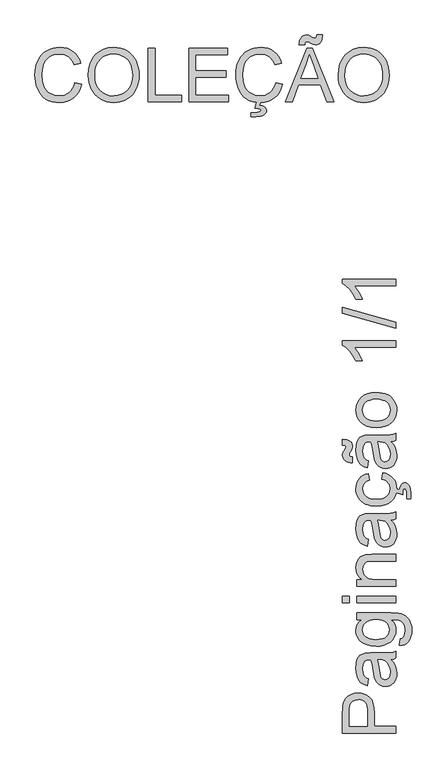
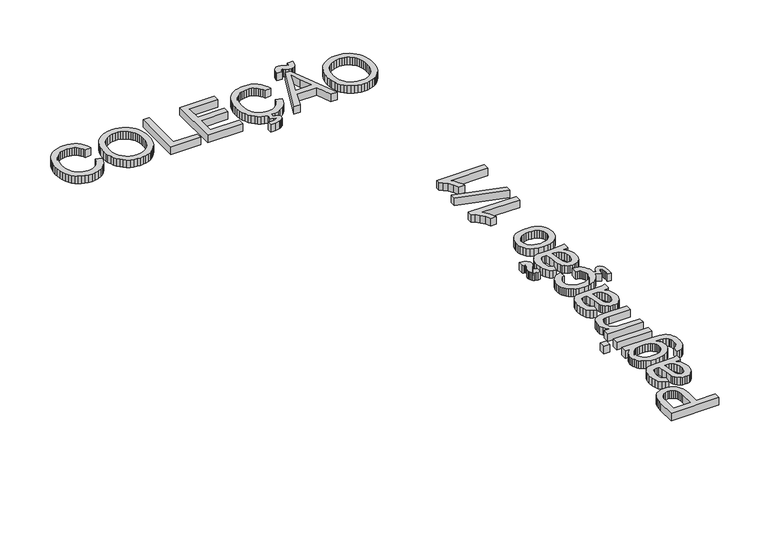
"""IFC4 building model written with IfcOpenShell, lengths in millimetres: proxy geometry, Tabela3D-1linha : Tabela3D-1linha."""

from ifc_helpers import new_model, si_unit, origin, origin_with_axes, place, context, project, spatial, polyline, outline, extrude, source, transform, mapped, element, save


def generic_models_49945ff3(model_context):
    return source(origin(), model_context, "Body", "SweptSolid", [
        extrude(outline(polyline([(4656.2375899, 6752.3459709), (4053.499729, 6752.3459709), (4053.499729, 6975.7239184), (4054.9344687, 7027.7424325), (4059.2386881, 7065.7814308), (4069.9624482, 7105.9357506), (4087.4184489, 7138.9899478), (4112.3976364, 7165.6062102), (4145.690957, 7186.4467252), (4184.9623599, 7199.9112062), (4227.8757947, 7204.3993666), (4264.8755263, 7201.3689386), (4298.9138079, 7192.2776548), (4329.9906395, 7177.1255152), (4358.106021, 7155.9125196), (4381.4113454, 7126.7900612), (4398.0580056, 7087.9095328), (4408.0460018, 7039.2709345), (4411.3753339, 6980.8742663), (4411.3753339, 6827.6882035), (4656.2375899, 6827.6882035), (4656.2375899, 6752.3459709)]), holes=[polyline([(4336.0331013, 6827.6882035), (4336.0331013, 6985.2888503), (4334.3040559, 7021.5252268), (4329.1169197, 7052.0962206), (4320.4716929, 7077.0018316), (4308.3683752, 7096.24206), (4293.1288636, 7110.5986549), (4275.0750547, 7120.8533655), (4254.2069485, 7127.0061918), (4230.524545, 7129.057134), (4196.6794015, 7124.2194857), (4168.1317587, 7109.706541), (4146.6474501, 7087.3209216), (4133.9923095, 7058.8652493), (4130.1295486, 7029.8025717), (4128.8419616, 6983.5230167), (4128.8419616, 6827.6882035), (4336.0331013, 6827.6882035)])]), origin_with_axes(), (0.0, 0.0, 1.0), 100.0),
        extrude(outline(polyline([(4599.7309154, 7581.1105296), (4630.5962148, 7545.1132764), (4650.7929363, 7508.0491654), (4661.9397608, 7469.072068), (4665.6553689, 7427.3358557), (4663.4204858, 7393.7896162), (4656.7158365, 7364.3728522), (4645.5414208, 7339.0855635), (4629.897239, 7317.9277503), (4610.7765723, 7301.2213092), (4589.1727021, 7289.288137), (4565.0856285, 7282.1282336), (4538.5153514, 7279.7415992), (4507.28217, 7283.3468427), (4478.9184682, 7294.1625734), (4454.6382565, 7310.8460219), (4435.6555455, 7332.0544189), (4421.3081477, 7356.9784241), (4410.9338755, 7384.808697), (4399.60311, 7449.9973866), (4387.6837334, 7527.0318763), (4373.7042176, 7580.6690712), (4356.9287986, 7581.1105296), (4323.3043842, 7575.9233935), (4310.8515787, 7569.4394733), (4301.3050409, 7560.3619851), (4291.7768972, 7544.671818), (4284.9710803, 7525.5603484), (4279.5264268, 7477.0735014), (4283.1500644, 7432.191898), (4294.0209774, 7400.848352), (4314.1257284, 7379.4744081), (4345.4508803, 7364.5016109), (4336.0331013, 7289.1593783), (4294.8303178, 7302.2375832), (4262.4567022, 7321.753723), (4237.6982439, 7349.5288137), (4219.3409324, 7387.383871), (4207.9733787, 7433.6818201), (4204.1841942, 7486.7855861), (4207.5319203, 7537.7188483), (4217.5750988, 7578.0938973), (4232.6766547, 7608.5361324), (4251.1995132, 7629.670953), (4274.1001674, 7643.687257), (4302.3351105, 7652.7739423), (4368.259564, 7656.4527623), (4461.9958964, 7656.4527623), (4592.8883103, 7660.278735), (4625.2435318, 7665.9441177), (4656.2375899, 7675.2883204), (4656.2375899, 7599.9460878), (4630.0443918, 7587.8795584), (4599.7309154, 7581.1105296)]), holes=[polyline([(4449.0464502, 7581.1105296), (4461.5912262, 7530.4899671), (4472.1494395, 7459.5623184), (4484.3631217, 7394.7415109), (4492.714043, 7377.8741214), (4504.2287494, 7365.3845277), (4518.0243243, 7357.6590058), (4533.2178507, 7355.0838318), (4555.6218642, 7360.6940322), (4573.9791757, 7377.5246335), (4586.2296462, 7405.2077536), (4590.3131363, 7443.3755106), (4585.8065819, 7483.8425301), (4572.2869186, 7519.60066), (4552.3661085, 7548.5897613), (4528.6561139, 7568.7496946), (4504.2287494, 7577.6892271), (4470.3836059, 7580.6690712), (4449.0464502, 7581.1105296)])]), origin_with_axes(), (0.0, 0.0, 1.0), 100.0),
        extrude(outline(polyline([(4693.9087062, 7741.2127739), (4703.3264852, 7816.5550066), (4726.8709329, 7824.8691396), (4743.0577407, 7840.982371), (4755.639305, 7872.6570108), (4759.8331597, 7914.1173117), (4755.087482, 7958.3367275), (4749.1553848, 7976.1973984), (4740.8504487, 7991.2253779), (4718.041765, 8014.0340616), (4687.5811358, 8028.0135774), (4655.1707321, 8032.0970675), (4599.7309154, 8033.1639253), (4624.4525855, 8008.0927673), (4642.1109212, 7980.1153416), (4652.7059227, 7949.2316481), (4656.2375899, 7915.4416869), (4652.1265086, 7874.1331373), (4639.7932647, 7837.7634036), (4619.2378582, 7806.3324856), (4590.4602891, 7779.8403834), (4555.9345639, 7758.8205259), (4518.1346889, 7743.806342), (4477.0606641, 7734.7978316), (4432.7124896, 7731.7949949), (4371.8832017, 7737.1844661), (4315.9467443, 7753.3528798), (4290.723835, 7765.3366358), (4268.5451492, 7779.7300188), (4249.410687, 7796.533029), (4233.3204482, 7815.7456662), (4220.5733371, 7837.0598293), (4211.4682577, 7860.1674171), (4206.0052101, 7885.0684296), (4204.1841942, 7911.7628669), (4208.3044725, 7946.996765), (4220.6653076, 7978.9749074), (4241.2666993, 8007.6972942), (4270.1086477, 8033.1639253), (4213.6019733, 8033.1639253), (4213.6019733, 8108.5061579), (4595.7577898, 8108.5061579), (4683.9942864, 8103.35581), (4716.8139589, 8096.9178751), (4742.1012475, 8087.9047662), (4762.4957056, 8076.1003527), (4780.6368865, 8061.2885038), (4796.5247902, 8043.4692197), (4810.1594166, 8022.6425002), (4821.103906, 7999.0198776), (4828.9213984, 7972.812884), (4833.6118938, 7944.0215194), (4835.1753923, 7912.6457837), (4832.9726989, 7875.733424), (4826.3646185, 7842.5458695), (4815.3511513, 7813.0831202), (4799.9322972, 7787.3451761), (4780.0896621, 7766.5552449), (4755.8048519, 7751.9365341), (4727.0778666, 7743.4890438), (4693.9087062, 7741.2127739)]), holes=[polyline([(4427.5621417, 7807.1372275), (4464.8147922, 7809.1467829), (4496.6687744, 7815.1754491), (4523.1240884, 7825.2232261), (4544.1807341, 7839.2901139), (4560.2433817, 7856.3920281), (4571.7167015, 7875.5448845), (4578.6006933, 7896.748683), (4580.8953572, 7920.0034236), (4578.6144889, 7943.028238), (4571.7718838, 7964.1308689), (4560.3675419, 7983.3113164), (4544.4014633, 8000.5695805), (4523.5517512, 8014.8296064), (4497.4965089, 8025.0153391), (4466.2357364, 8031.1267788), (4429.7694336, 8033.1639253), (4394.8252426, 8031.0669979), (4364.4519854, 8024.7762158), (4338.6496619, 8014.291579), (4317.4182723, 7999.6130874), (4300.8405899, 7981.9823427), (4288.9993882, 7962.6409468), (4281.8946671, 7941.5888997), (4279.5264268, 7918.8262012), (4281.8578789, 7896.4451803), (4288.8522354, 7875.8024019), (4300.5094961, 7856.8978658), (4316.8296611, 7839.7315722), (4337.739154, 7825.4715464), (4363.1643984, 7815.2858137), (4393.1053943, 7809.174374), (4427.5621417, 7807.1372275)])]), origin_with_axes(), (0.0, 0.0, 1.0), 100.0),
        extrude(outline(polyline([(4128.8419616, 8221.5195068), (4053.499729, 8221.5195068), (4053.499729, 8296.8617395), (4128.8419616, 8296.8617395), (4128.8419616, 8221.5195068)])), origin_with_axes(), (0.0, 0.0, 1.0), 100.0),
        extrude(outline(polyline([(4656.2375899, 8221.5195068), (4213.6019733, 8221.5195068), (4213.6019733, 8296.8617395), (4656.2375899, 8296.8617395), (4656.2375899, 8221.5195068)])), origin_with_axes(), (0.0, 0.0, 1.0), 100.0),
        extrude(outline(polyline([(4656.2375899, 8409.8750884), (4213.6019733, 8409.8750884), (4213.6019733, 8485.217321), (4275.4061484, 8485.217321), (4244.2465435, 8511.3921249), (4221.9896827, 8542.8276414), (4208.6355663, 8579.5238704), (4204.1841942, 8621.480812), (4207.7710436, 8658.6184994), (4218.531592, 8692.6291899), (4235.12307, 8720.9928917), (4256.2027083, 8741.1896132), (4281.7153247, 8754.8932175), (4311.6057368, 8763.7775677), (4384.4463718, 8767.7506933), (4656.2375899, 8767.7506933), (4656.2375899, 8692.4084607), (4394.5999149, 8692.4084607), (4355.6412116, 8690.2379569), (4327.9396974, 8683.7264456), (4308.0924637, 8671.7150984), (4292.6966022, 8653.0450872), (4282.8189707, 8629.1143634), (4279.5264268, 8601.3208787), (4281.3750338, 8578.4432171), (4286.9208549, 8557.1934333), (4296.16389, 8537.5715274), (4309.1041392, 8519.5774993), (4327.2131304, 8504.5449213), (4351.9623916, 8493.8073656), (4383.3519229, 8487.3648321), (4421.3817241, 8485.217321), (4656.2375899, 8485.217321), (4656.2375899, 8409.8750884)])), origin_with_axes(), (0.0, 0.0, 1.0), 100.0),
        extrude(outline(polyline([(4599.7309154, 9153.8796354), (4630.5962148, 9117.8823822), (4650.7929363, 9080.8182712), (4661.9397608, 9041.8411738), (4665.6553689, 9000.1049614), (4663.4204858, 8966.558722), (4656.7158365, 8937.141958), (4645.5414208, 8911.8546693), (4629.897239, 8890.6968561), (4610.7765723, 8873.990415), (4589.1727021, 8862.0572427), (4565.0856285, 8854.8973394), (4538.5153514, 8852.510705), (4507.28217, 8856.1159485), (4478.9184682, 8866.9316792), (4454.6382565, 8883.6151277), (4435.6555455, 8904.8235247), (4421.3081477, 8929.7475299), (4410.9338755, 8957.5778028), (4399.60311, 9022.7664923), (4387.6837334, 9099.8009821), (4373.7042176, 9153.438177), (4356.9287986, 9153.8796354), (4323.3043842, 9148.6924993), (4310.8515787, 9142.2085791), (4301.3050409, 9133.1310909), (4291.7768972, 9117.4409238), (4284.9710803, 9098.3294541), (4279.5264268, 9049.8426072), (4283.1500644, 9004.9610038), (4294.0209774, 8973.6174578), (4314.1257284, 8952.2435139), (4345.4508803, 8937.2707167), (4336.0331013, 8861.928484), (4294.8303178, 8875.006689), (4262.4567022, 8894.5228288), (4237.6982439, 8922.2979195), (4219.3409324, 8960.1529768), (4207.9733787, 9006.4509259), (4204.1841942, 9059.5546919), (4207.5319203, 9110.4879541), (4217.5750988, 9150.8630031), (4232.6766547, 9181.3052382), (4251.1995132, 9202.4400588), (4274.1001674, 9216.4563628), (4302.3351105, 9225.5430481), (4368.259564, 9229.221868), (4461.9958964, 9229.221868), (4592.8883103, 9233.0478408), (4625.2435318, 9238.7132235), (4656.2375899, 9248.0574262), (4656.2375899, 9172.7151936), (4630.0443918, 9160.6486641), (4599.7309154, 9153.8796354)]), holes=[polyline([(4449.0464502, 9153.8796354), (4461.5912262, 9103.2590729), (4472.1494395, 9032.3314242), (4484.3631217, 8967.5106167), (4492.714043, 8950.6432272), (4504.2287494, 8938.1536334), (4518.0243243, 8930.4281115), (4533.2178507, 8927.8529376), (4555.6218642, 8933.463138), (4573.9791757, 8950.2937393), (4586.2296462, 8977.9768594), (4590.3131363, 9016.1446164), (4585.8065819, 9056.6116359), (4572.2869186, 9092.3697658), (4552.3661085, 9121.358867), (4528.6561139, 9141.5188004), (4504.2287494, 9150.4583329), (4470.3836059, 9153.438177), (4449.0464502, 9153.8796354)])]), origin_with_axes(), (0.0, 0.0, 1.0), 100.0),
        extrude(outline(polyline([(4496.1353456, 9615.3508102), (4505.5531246, 9690.6930428), (4541.1043209, 9682.4984713), (4572.5628301, 9669.6869809), (4599.928652, 9652.2585713), (4623.2017867, 9630.2132428), (4641.7752289, 9604.4798972), (4655.0419734, 9575.9874367), (4663.00202, 9544.7358612), (4665.6553689, 9510.7251707), (4665.4777226, 9508.6973547), (4697.1460677, 9498.2171829), (4704.0622492, 9532.154297), (4717.1588483, 9557.1518785), (4734.265361, 9572.54774), (4753.2112838, 9577.6796939), (4767.1356173, 9575.8218898), (4780.2138222, 9570.2484776), (4792.4458986, 9560.9594572), (4803.8318463, 9547.9548287), (4813.4243693, 9531.1978038), (4820.2761715, 9510.6515943), (4825.7576132, 9458.1916218), (4825.7576132, 9398.7418914), (4778.6687179, 9398.7418914), (4778.6687179, 9440.3861333), (4776.4982141, 9475.8499576), (4769.9867028, 9498.9529469), (4762.6290629, 9508.554667), (4753.799895, 9511.7552403), (4743.1313171, 9506.6048924), (4735.185066, 9487.548605), (4731.5798225, 9443.476342), (4660.4883996, 9463.4708047), (4650.8481186, 9430.5820781), (4632.3390557, 9397.0634298), (4606.4263677, 9367.9133802), (4573.5974982, 9344.3183487), (4534.3398908, 9327.4647548), (4488.6535455, 9317.3525985), (4436.5384623, 9313.9818797), (4369.4919687, 9319.7392329), (4339.3210466, 9326.9359245), (4311.3850076, 9337.0112926), (4286.2448717, 9350.0343152), (4264.4616591, 9366.0739702), (4246.0353697, 9385.1302576), (4230.9660034, 9407.2031773), (4219.2489619, 9431.2948495), (4210.8796465, 9456.4073942), (4205.8580573, 9482.5408114), (4204.1841942, 9509.6951012), (4206.4834567, 9543.1217789), (4213.3812441, 9573.3570804), (4224.8775564, 9600.4010056), (4240.9723937, 9624.2535545), (4261.2978739, 9644.5100568), (4285.4861151, 9660.7658425), (4313.5371172, 9673.0209114), (4345.4508803, 9681.2752637), (4354.8686594, 9605.9330311), (4321.9984031, 9592.266215), (4298.4355613, 9570.9842416), (4284.2537104, 9543.2643332), (4279.5264268, 9510.2837123), (4281.8532804, 9484.683724), (4288.8338413, 9461.5945303), (4300.4681094, 9441.0161312), (4316.7560847, 9422.9485267), (4338.0748463, 9408.2378454), (4364.8014733, 9397.7302159), (4396.9359656, 9391.4256382), (4434.4783232, 9389.3241123), (4472.5862993, 9391.379653), (4505.0932721, 9397.5462749), (4531.9992416, 9407.8239782), (4553.3042076, 9422.2127627), (4569.4956139, 9439.9216822), (4581.0609041, 9460.1597905), (4588.0000783, 9482.9270875), (4590.3131363, 9508.2235732), (4584.537389, 9547.2374588), (4577.3177048, 9564.1094468), (4567.210147, 9579.2247982), (4554.1043509, 9592.1604489), (4537.889952, 9602.4933344), (4518.5669502, 9610.2234549), (4496.1353456, 9615.3508102)])), origin_with_axes(), (0.0, 0.0, 1.0), 100.0),
        extrude(outline(polyline([(4166.5130779, 9803.7063917), (4142.0581222, 9805.058358), (4120.1967347, 9809.4085626), (4100.9289152, 9816.7570055), (4084.2546638, 9827.1036866), (4070.7993798, 9839.6208715), (4061.1884627, 9853.7751312), (4055.4219124, 9869.5664659), (4053.499729, 9886.9948754), (4059.5697819, 9914.8067542), (4077.7799406, 9947.3275226), (4087.8231191, 9964.5076118), (4091.1708453, 9977.7881518), (4089.276253, 9987.0035958), (4083.5924762, 9993.7542304), (4072.2801048, 9998.4447258), (4053.499729, 10001.4797523), (4053.499729, 10067.4042058), (4102.9430691, 10060.8375122), (4122.3672385, 10053.512062), (4138.2597406, 10043.4918762), (4150.6205757, 10031.3563688), (4159.4497436, 10017.6849542), (4164.7472443, 10002.4776322), (4166.5130779, 9985.7344029), (4160.7741188, 9957.7385831), (4143.5572414, 9926.1375197), (4132.5207815, 9907.3019615), (4128.8419616, 9894.3525153), (4131.2331945, 9884.346125), (4138.4068934, 9876.3998739), (4150.1423291, 9871.1759496), (4166.5130779, 9869.6308452), (4166.5130779, 9803.7063917)])), origin_with_axes(), (0.0, 0.0, 1.0), 100.0),
        extrude(outline(polyline([(4599.7309154, 10039.1508686), (4630.5962148, 10003.1536154), (4650.7929363, 9966.0895044), (4661.9397608, 9927.112407), (4665.6553689, 9885.3761946), (4663.4204858, 9851.8299552), (4656.7158365, 9822.4131912), (4645.5414208, 9797.1259025), (4629.897239, 9775.9680893), (4610.7765723, 9759.2616482), (4589.1727021, 9747.3284759), (4565.0856285, 9740.1685726), (4538.5153514, 9737.7819382), (4507.28217, 9741.3871817), (4478.9184682, 9752.2029124), (4454.6382565, 9768.8863609), (4435.6555455, 9790.0947579), (4421.3081477, 9815.0187631), (4410.9338755, 9842.849036), (4399.60311, 9908.0377255), (4387.6837334, 9985.0722153), (4373.7042176, 10038.7094102), (4356.9287986, 10039.1508686), (4323.3043842, 10033.9637325), (4310.8515787, 10027.4798123), (4301.3050409, 10018.4023241), (4291.7768972, 10002.712157), (4284.9710803, 9983.6006873), (4279.5264268, 9935.1138404), (4283.1500644, 9890.232237), (4294.0209774, 9858.888691), (4314.1257284, 9837.5147471), (4345.4508803, 9822.5419499), (4336.0331013, 9747.1997172), (4294.8303178, 9760.2779222), (4262.4567022, 9779.794062), (4237.6982439, 9807.5691526), (4219.3409324, 9845.42421), (4207.9733787, 9891.722159), (4204.1841942, 9944.825925), (4207.5319203, 9995.7591873), (4217.5750988, 10036.1342363), (4232.6766547, 10066.5764714), (4251.1995132, 10087.711292), (4274.1001674, 10101.727596), (4302.3351105, 10110.8142813), (4368.259564, 10114.4931012), (4461.9958964, 10114.4931012), (4592.8883103, 10118.319074), (4625.2435318, 10123.9844567), (4656.2375899, 10133.3286594), (4656.2375899, 10057.9864268), (4630.0443918, 10045.9198973), (4599.7309154, 10039.1508686)]), holes=[polyline([(4449.0464502, 10039.1508686), (4461.5912262, 9988.5303061), (4472.1494395, 9917.6026574), (4484.3631217, 9852.7818499), (4492.714043, 9835.9144604), (4504.2287494, 9823.4248666), (4518.0243243, 9815.6993447), (4533.2178507, 9813.1241708), (4555.6218642, 9818.7343712), (4573.9791757, 9835.5649725), (4586.2296462, 9863.2480926), (4590.3131363, 9901.4158496), (4585.8065819, 9941.8828691), (4572.2869186, 9977.640999), (4552.3661085, 10006.6301002), (4528.6561139, 10026.7900336), (4504.2287494, 10035.7295661), (4470.3836059, 10038.7094102), (4449.0464502, 10039.1508686)])]), origin_with_axes(), (0.0, 0.0, 1.0), 100.0),
        extrude(outline(polyline([(4434.9197816, 10199.2531129), (4377.5945697, 10203.327406), (4328.1972148, 10215.5502853), (4286.7277169, 10235.9217508), (4253.1860759, 10264.4418025), (4231.7477527, 10293.1549922), (4216.4346646, 10324.8480261), (4207.2468118, 10359.5209041), (4204.1841942, 10397.1736263), (4207.9135979, 10438.7396932), (4219.1018091, 10476.3234376), (4237.7488277, 10509.9248593), (4263.8546538, 10539.5439585), (4296.5363705, 10563.7184041), (4334.9110612, 10580.9858652), (4378.9787257, 10591.3463419), (4428.739364, 10594.7998341), (4469.0684278, 10593.2731238), (4504.8541488, 10588.692993), (4536.0965273, 10581.0594416), (4562.7955631, 10570.3724696), (4585.8571657, 10556.7654344), (4606.1872444, 10540.3716929), (4623.7857994, 10521.1912454), (4638.6528305, 10499.2240918), (4650.4664411, 10475.3255577), (4658.9047343, 10450.3509687), (4663.9677103, 10424.3003249), (4665.6553689, 10397.1736263), (4661.9397608, 10355.0005541), (4650.7929363, 10317.0673219), (4632.2148956, 10283.3739296), (4606.2056385, 10253.9203774), (4573.2066235, 10230.0034492), (4533.6593091, 10212.919929), (4487.5636951, 10202.6698169), (4434.9197816, 10199.2531129)]), holes=[polyline([(4434.7726288, 10274.5953455), (4471.3171065, 10276.7750463), (4502.9595566, 10283.3141488), (4529.6999791, 10294.2126529), (4551.538374, 10309.4705587), (4568.5023325, 10328.0302053), (4580.6194457, 10348.8339322), (4587.8897137, 10371.8817391), (4590.3131363, 10397.1736263), (4587.8759181, 10422.3367548), (4580.5642634, 10445.2925913), (4568.3781724, 10466.0411358), (4551.3176448, 10484.5823884), (4529.2631192, 10499.8402941), (4502.0950339, 10510.7387982), (4469.8133888, 10517.2779007), (4432.418184, 10519.4576015), (4397.0325346, 10517.2641051), (4366.217819, 10510.6836159), (4339.9740371, 10499.7161339), (4318.3011891, 10484.3616592), (4301.3372306, 10465.7514287), (4289.2201174, 10445.0166798), (4281.9498494, 10422.1574123), (4279.5264268, 10397.1736263), (4281.9406524, 10371.8817391), (4289.1833292, 10348.8339322), (4301.2544571, 10328.0302053), (4318.1540363, 10309.4705587), (4339.9280519, 10294.2126529), (4366.6224892, 10283.3141488), (4398.2373481, 10276.7750463), (4434.7726288, 10274.5953455)])]), origin_with_axes(), (0.0, 0.0, 1.0), 100.0),
        extrude(outline(polyline([(4656.2375899, 11178.7021369), (4656.2375899, 11103.3599043), (4186.5258584, 11103.3599043), (4211.9648984, 11071.9059937), (4237.3671501, 11031.9907972), (4259.5688286, 10990.0890379), (4275.4061484, 10952.675439), (4204.1841942, 10952.675439), (4171.9945196, 11011.849258), (4133.6980039, 11063.113614), (4092.973467, 11103.5254512), (4053.499729, 11130.1417135), (4053.499729, 11178.7021369), (4656.2375899, 11178.7021369)])), origin_with_axes(), (0.0, 0.0, 1.0), 100.0),
        extrude(outline(polyline([(4656.2375899, 11319.968823), (4053.499729, 11489.4888464), (4053.499729, 11557.4734391), (4656.2375899, 11387.9534157), (4656.2375899, 11319.968823)])), origin_with_axes(), (0.0, 0.0, 1.0), 100.0),
        extrude(outline(polyline([(4656.2375899, 11875.6177885), (4656.2375899, 11800.2755559), (4186.5258584, 11800.2755559), (4211.9648984, 11768.8216453), (4237.3671501, 11728.9064489), (4259.5688286, 11687.0046896), (4275.4061484, 11649.5910907), (4204.1841942, 11649.5910907), (4171.9945196, 11708.7649096), (4133.6980039, 11760.0292657), (4092.973467, 11800.4411028), (4053.499729, 11827.0573652), (4053.499729, 11875.6177885), (4656.2375899, 11875.6177885)])), origin_with_axes(), (0.0, 0.0, 1.0), 100.0),
        extrude(outline(polyline([(1029.7354819, 14091.1684494), (1105.0777146, 14071.7442801), (1090.1692967, 14024.8899095), (1070.312866, 13983.9492419), (1045.5084225, 13948.9222775), (1015.7559661, 13919.8090161), (981.7268816, 13896.9221574), (944.0925535, 13880.5744013), (902.8529818, 13870.7657476), (858.0081666, 13867.4961963), (812.0643039, 13869.9702028), (770.6177986, 13877.392222), (733.6686507, 13889.7622541), (701.2168602, 13907.080299), (672.8163702, 13929.0888394), (648.0211237, 13955.5303578), (626.8311208, 13986.4048542), (609.2463615, 14021.7123287), (595.4369911, 14059.926071), (585.5731551, 14099.5193707), (579.6548535, 14140.4922279), (577.6820863, 14182.8446426), (579.9123709, 14228.2872661), (586.6032246, 14270.7316513), (597.7546476, 14310.1777982), (613.3666398, 14346.6257069), (633.0897133, 14379.4729705), (656.5743801, 14408.1171824), (683.8206404, 14432.5583424), (714.8284941, 14452.7964507), (748.5448789, 14468.6659602), (783.9167328, 14480.0013242), (820.9440556, 14486.8025426), (859.6268474, 14489.0696154), (902.7196246, 14486.1357565), (942.2347494, 14477.3341797), (978.1722218, 14462.6648852), (1010.5320418, 14442.1278728), (1038.7807805, 14416.2657686), (1062.385009, 14385.6211984), (1081.3447273, 14350.1941622), (1095.6599355, 14309.9846601), (1020.3177029, 14292.0320188), (1008.4535085, 14321.660315), (994.1980812, 14346.9751948), (977.5514209, 14367.9766582), (958.5135277, 14384.6647052), (936.9740369, 14397.3796266), (912.8225839, 14406.4617134), (886.0591687, 14411.9109654), (856.6837914, 14413.7273828), (822.8846331, 14411.7132289), (791.9733485, 14405.6707671), (763.9499375, 14395.5999975), (738.8144002, 14381.50092), (716.8840347, 14364.0081311), (698.4761394, 14343.7562273), (683.5907142, 14320.7452085), (672.227759, 14294.9750747), (657.8251789, 14239.8295637), (653.0243189, 14182.9917954), (658.7080957, 14113.3885219), (665.8128167, 14082.1185523), (675.7594262, 14053.2030275), (688.7088724, 14027.2167631), (704.8221038, 14004.7345746), (724.0991203, 13985.7564622), (746.5399221, 13970.2824258), (771.0546585, 13958.2756772), (796.5534793, 13949.6994282), (823.0363844, 13944.5536788), (850.5033739, 13942.838429), (883.258667, 13945.1744796), (913.392801, 13952.1826316), (940.9057757, 13963.862885), (965.7975912, 13980.2152397), (987.4796363, 14001.1661193), (1005.3632998, 14026.6419475), (1019.4485816, 14056.6427242), (1029.7354819, 14091.1684494)])), origin_with_axes(), (0.0, 0.0, 1.0), 100.0),
        extrude(outline(polyline([(1180.4199472, 14170.3366548), (1185.4415364, 14241.0343772), (1200.5063041, 14303.6203016), (1225.6142503, 14358.0944281), (1241.9344153, 14382.289567), (1260.7653749, 14404.4567565), (1303.8535536, 14441.4748823), (1352.7726619, 14467.9164007), (1407.5226998, 14483.7813117), (1468.1036674, 14489.0696154), (1508.6534603, 14486.5864119), (1547.1615082, 14479.1368015), (1583.6278109, 14466.7207842), (1618.0523686, 14449.3383599), (1649.469491, 14427.5137606), (1676.9134879, 14401.7712179), (1700.3843591, 14372.1107321), (1719.8821049, 14338.532303), (1735.20439, 14301.7992858), (1746.1488793, 14262.6750356), (1752.715573, 14221.1595524), (1754.9044708, 14177.2528363), (1752.6006098, 14132.766706), (1745.6890269, 14090.6902028), (1734.1697219, 14051.0233267), (1718.0426949, 14013.7660776), (1697.6896235, 13979.90254), (1673.4921853, 13950.4167981), (1645.4503802, 13925.3088519), (1613.5642083, 13904.5787015), (1579.0890668, 13888.3551055), (1543.2803531, 13876.7668226), (1506.1380672, 13869.8138529), (1467.662209, 13867.4961963), (1426.4042432, 13870.0575747), (1387.3903576, 13877.7417099), (1350.6205522, 13890.5486019), (1316.094827, 13908.4782506), (1284.7144928, 13930.8362789), (1257.3808606, 13956.9283094), (1234.0939303, 13986.7543421), (1214.8537019, 14020.3143771), (1199.7889342, 14056.2610466), (1189.0283859, 14093.2469827), (1182.5720568, 14131.2721854), (1180.4199472, 14170.3366548)]), holes=[polyline([(1255.7621798, 14169.6008908), (1259.5283717, 14119.6517129), (1270.8269475, 14075.3127354), (1289.6579071, 14036.5839584), (1316.0212506, 14003.4653818), (1348.0683709, 13976.9410899), (1383.950661, 13957.9951672), (1423.6681209, 13946.6276135), (1467.2207506, 13942.838429), (1511.5183413, 13946.6644017), (1551.7048508, 13958.14232), (1587.7802789, 13977.2721837), (1619.7446258, 14004.053993), (1645.9148312, 14037.8715454), (1664.6078351, 14078.1086386), (1675.8236374, 14124.7652726), (1679.5622382, 14177.8414475), (1677.9619515, 14212.3211875), (1673.1610915, 14244.5384532), (1665.1596581, 14274.4932447), (1653.9576514, 14302.1855618), (1639.6792314, 14327.2521213), (1622.4485585, 14349.3296395), (1602.2656325, 14368.4181166), (1579.1304535, 14384.5175524), (1553.7603914, 14397.2968532), (1526.8728161, 14406.4249252), (1498.4677276, 14411.9017684), (1468.5451258, 14413.7273828), (1426.5054108, 14410.2095112), (1387.5007222, 14399.6558965), (1351.5310602, 14382.0665386), (1318.5964246, 14357.4414375), (1291.1064425, 14324.5941739), (1271.470741, 14282.3383282), (1259.6893201, 14230.6739005), (1255.7621798, 14169.6008908)])]), origin_with_axes(), (0.0, 0.0, 1.0), 100.0),
        extrude(outline(polyline([(1858.5000407, 13876.9139754), (1858.5000407, 14479.6518363), (1933.8422733, 14479.6518363), (1933.8422733, 13952.256208), (2235.2112037, 13952.256208), (2235.2112037, 13876.9139754), (1858.5000407, 13876.9139754)])), origin_with_axes(), (0.0, 0.0, 1.0), 100.0),
        extrude(outline(polyline([(2319.9712154, 13876.9139754), (2319.9712154, 14479.6518363), (2753.1890529, 14479.6518363), (2753.1890529, 14404.3096037), (2395.313448, 14404.3096037), (2395.313448, 14225.3718013), (2734.3534948, 14225.3718013), (2734.3534948, 14150.0295686), (2395.313448, 14150.0295686), (2395.313448, 13952.256208), (2762.606832, 13952.256208), (2762.606832, 13876.9139754), (2319.9712154, 13876.9139754)])), origin_with_axes(), (0.0, 0.0, 1.0), 100.0),
        extrude(outline(polyline([(3299.4202394, 14091.1684494), (3374.762472, 14071.7442801), (3359.8540541, 14024.8899095), (3339.9976234, 13983.9492419), (3315.1931799, 13948.9222775), (3285.4407236, 13919.8090161), (3251.411639, 13896.9221574), (3213.7773109, 13880.5744013), (3172.5377392, 13870.7657476), (3126.7994627, 13867.5443079), (3116.3621586, 13836.0054976), (3150.2992726, 13829.089316), (3175.2968542, 13815.992717), (3190.6927157, 13798.8862042), (3195.8246695, 13779.9402815), (3193.9668655, 13766.015948), (3188.3934532, 13752.937743), (3179.1044329, 13740.7056667), (3166.0998043, 13729.319719), (3149.3427794, 13719.7271959), (3128.79657, 13712.8753938), (3076.3365975, 13707.393952), (3016.8868671, 13707.393952), (3016.8868671, 13754.4828474), (3058.5311089, 13754.4828474), (3093.9949333, 13756.6533512), (3117.0979226, 13763.1648625), (3126.6996426, 13770.5225024), (3129.900216, 13779.3516703), (3124.7498681, 13790.0202482), (3105.6935807, 13797.9664993), (3061.6213177, 13801.5717428), (3080.9010923, 13870.1220525), (3040.3025561, 13877.392222), (3003.3534082, 13889.7622541), (2970.9016177, 13907.080299), (2942.5011277, 13929.0888394), (2917.7058812, 13955.5303578), (2896.5158783, 13986.4048542), (2878.9311189, 14021.7123287), (2865.1217485, 14059.926071), (2855.2579125, 14099.5193707), (2849.3396109, 14140.4922279), (2847.3668437, 14182.8446426), (2849.5971283, 14228.2872661), (2856.2879821, 14270.7316513), (2867.4394051, 14310.1777982), (2883.0513972, 14346.6257069), (2902.7744707, 14379.4729705), (2926.2591376, 14408.1171824), (2953.5053978, 14432.5583424), (2984.5132515, 14452.7964507), (3018.2296364, 14468.6659602), (3053.6014902, 14480.0013242), (3090.628813, 14486.8025426), (3129.3116048, 14489.0696154), (3172.404382, 14486.1357565), (3211.9195068, 14477.3341797), (3247.8569792, 14462.6648852), (3280.2167992, 14442.1278728), (3308.4655379, 14416.2657686), (3332.0697665, 14385.6211984), (3351.0294848, 14350.1941622), (3365.3446929, 14309.9846601), (3290.0024603, 14292.0320188), (3278.138266, 14321.660315), (3263.8828386, 14346.9751948), (3247.2361784, 14367.9766582), (3228.1982851, 14384.6647052), (3206.6587943, 14397.3796266), (3182.5073413, 14406.4617134), (3155.7439262, 14411.9109654), (3126.3685489, 14413.7273828), (3092.5693905, 14411.7132289), (3061.6581059, 14405.6707671), (3033.6346949, 14395.5999975), (3008.4991576, 14381.50092), (2986.5687922, 14364.0081311), (2968.1608968, 14343.7562273), (2953.2754716, 14320.7452085), (2941.9125165, 14294.9750747), (2927.5099364, 14239.8295637), (2922.7090763, 14182.9917954), (2928.3928531, 14113.3885219), (2935.4975742, 14082.1185523), (2945.4441836, 14053.2030275), (2958.3936299, 14027.2167631), (2974.5068612, 14004.7345746), (2993.7838778, 13985.7564622), (3016.2246795, 13970.2824258), (3040.7394159, 13958.2756772), (3066.2382367, 13949.6994282), (3092.7211419, 13944.5536788), (3120.1881313, 13942.838429), (3152.9434245, 13945.1744796), (3183.0775584, 13952.1826316), (3210.5905331, 13963.862885), (3235.4823486, 13980.2152397), (3257.1643937, 14001.1661193), (3275.0480572, 14026.6419475), (3289.1333391, 14056.6427242), (3299.4202394, 14091.1684494)])), origin_with_axes(), (0.0, 0.0, 1.0), 100.0),
        extrude(outline(polyline([(3408.1661572, 13876.9139754), (3648.760982, 14479.6518363), (3712.919602, 14479.6518363), (3953.5144268, 13876.9139754), (3873.904763, 13876.9139754), (3804.8901008, 14065.269557), (3556.6433304, 14065.269557), (3487.7758209, 13876.9139754), (3408.1661572, 13876.9139754)]), holes=[polyline([(3584.3080564, 14140.6117896), (3777.3725275, 14140.6117896), (3723.073145, 14288.7946572), (3680.840292, 14404.3096037), (3643.3163285, 14301.7441035), (3584.3080564, 14140.6117896)])]), origin_with_axes(), (0.0, 0.0, 1.0), 100.0),
        extrude(outline(polyline([(3563.1180535, 14517.3229526), (3564.4700199, 14541.7779083), (3568.8202244, 14563.6392958), (3576.1686673, 14582.9071153), (3586.5153484, 14599.5813667), (3599.0325333, 14613.0366507), (3613.1867931, 14622.6475678), (3628.9781277, 14628.4141181), (3646.4065372, 14630.3363015), (3674.2184161, 14624.2662486), (3706.7391844, 14606.0560899), (3723.9192736, 14596.0129114), (3737.1998136, 14592.6651852), (3746.4152576, 14594.5597775), (3753.1658922, 14600.2435543), (3757.8563877, 14611.5559257), (3760.8914141, 14630.3363015), (3826.8158677, 14630.3363015), (3820.2491741, 14580.8929614), (3812.9237238, 14561.468792), (3802.903538, 14545.5762899), (3790.7680307, 14533.2154548), (3777.096616, 14524.3862869), (3761.889294, 14519.0887862), (3745.1460647, 14517.3229526), (3717.1502449, 14523.0619117), (3685.5491815, 14540.2787891), (3666.7136234, 14551.315249), (3653.7641771, 14554.9940689), (3643.7577869, 14552.602836), (3635.8115358, 14545.4291371), (3630.5876114, 14533.6937014), (3629.0425071, 14517.3229526), (3563.1180535, 14517.3229526)])), origin_with_axes(), (0.0, 0.0, 1.0), 100.0),
        extrude(outline(polyline([(4005.7536701, 14170.3366548), (4010.7752594, 14241.0343772), (4025.8400271, 14303.6203016), (4050.9479732, 14358.0944281), (4067.2681382, 14382.289567), (4086.0990979, 14404.4567565), (4129.1872766, 14441.4748823), (4178.1063849, 14467.9164007), (4232.8564228, 14483.7813117), (4293.4373903, 14489.0696154), (4333.9871833, 14486.5864119), (4372.4952311, 14479.1368015), (4408.9615339, 14466.7207842), (4443.3860916, 14449.3383599), (4474.803214, 14427.5137606), (4502.2472108, 14401.7712179), (4525.7180821, 14372.1107321), (4545.2158278, 14338.532303), (4560.5381129, 14301.7992858), (4571.4826023, 14262.6750356), (4578.0492959, 14221.1595524), (4580.2381938, 14177.2528363), (4577.9343328, 14132.766706), (4571.0227498, 14090.6902028), (4559.5034448, 14051.0233267), (4543.3764179, 14013.7660776), (4523.0233465, 13979.90254), (4498.8259083, 13950.4167981), (4470.7841032, 13925.3088519), (4438.8979312, 13904.5787015), (4404.4227898, 13888.3551055), (4368.6140761, 13876.7668226), (4331.4717901, 13869.8138529), (4292.995932, 13867.4961963), (4251.7379662, 13870.0575747), (4212.7240806, 13877.7417099), (4175.9542752, 13890.5486019), (4141.4285499, 13908.4782506), (4110.0482158, 13930.8362789), (4082.7145835, 13956.9283094), (4059.4276532, 13986.7543421), (4040.1874249, 14020.3143771), (4025.1226572, 14056.2610466), (4014.3621088, 14093.2469827), (4007.9057798, 14131.2721854), (4005.7536701, 14170.3366548)]), holes=[polyline([(4081.0959027, 14169.6008908), (4084.8620947, 14119.6517129), (4096.1606704, 14075.3127354), (4114.9916301, 14036.5839584), (4141.3549735, 14003.4653818), (4173.4020938, 13976.9410899), (4209.284384, 13957.9951672), (4249.0018439, 13946.6276135), (4292.5544736, 13942.838429), (4336.8520643, 13946.6644017), (4377.0385738, 13958.14232), (4413.1140019, 13977.2721837), (4445.0783488, 14004.053993), (4471.2485542, 14037.8715454), (4489.9415581, 14078.1086386), (4501.1573604, 14124.7652726), (4504.8959612, 14177.8414475), (4503.2956745, 14212.3211875), (4498.4948145, 14244.5384532), (4490.4933811, 14274.4932447), (4479.2913743, 14302.1855618), (4465.0129544, 14327.2521213), (4447.7822814, 14349.3296395), (4427.5993555, 14368.4181166), (4404.4641765, 14384.5175524), (4379.0941144, 14397.2968532), (4352.2065391, 14406.4249252), (4323.8014505, 14411.9017684), (4293.8788487, 14413.7273828), (4251.8391337, 14410.2095112), (4212.8344452, 14399.6558965), (4176.8647831, 14382.0665386), (4143.9301475, 14357.4414375), (4116.4401654, 14324.5941739), (4096.8044639, 14282.3383282), (4085.023043, 14230.6739005), (4081.0959027, 14169.6008908)])]), origin_with_axes(), (0.0, 0.0, 1.0), 100.0),
    ])


if __name__ == "__main__":
    model = new_model("IFC4")
    model_context = context("Model", 3, world=origin())
    ifc_project = project(units=[si_unit("LENGTHUNIT", "METRE", prefix="MILLI")], contexts=[model_context])
    site = spatial("IfcSite", under=ifc_project)
    building = spatial("IfcBuilding", under=site)
    placement = place(None, origin())
    generic_models_shape = generic_models_49945ff3(model_context)
    element("IfcBuildingElementProxy", 1, Name="Tabela3D-1linha : Tabela3D-1linha", ObjectType="Tabela3D-1linha : Tabela3D-1linha", at=placement, inside=building, context=model_context, shape_type="MappedRepresentation", body=[
        mapped(generic_models_shape, transform((0.0, 0.0, 0.0), x_axis=(1.0, 0.0, 0.0), y_axis=(0.0, 1.0, 0.0), z_axis=(0.0, 0.0, 1.0))),
    ])
    save(model, "model.ifc")
